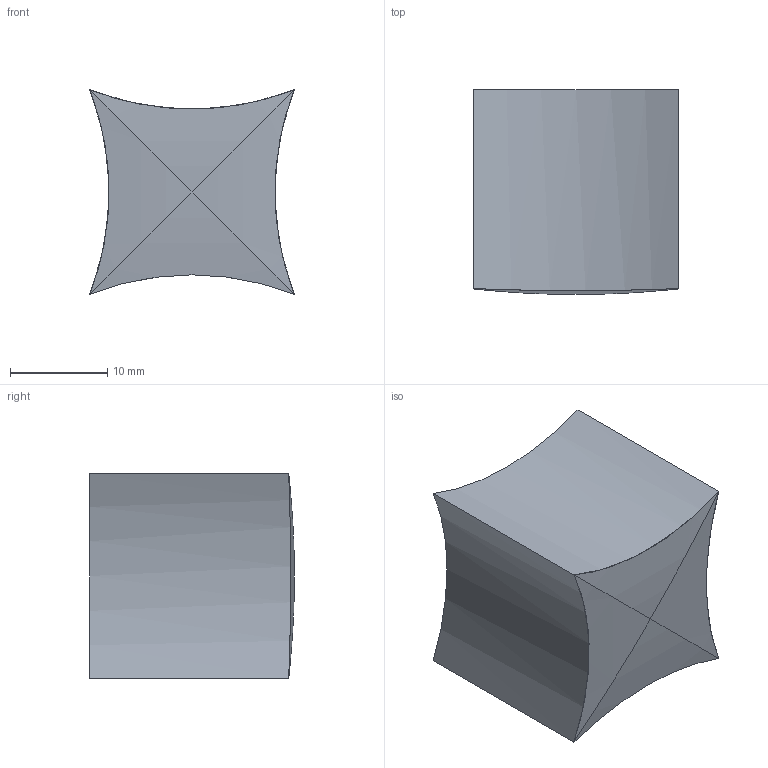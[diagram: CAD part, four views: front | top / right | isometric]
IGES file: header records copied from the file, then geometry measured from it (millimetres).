
Start section: Data from Parasolid IGES Translator 15.0.47, Copyright(c) 2006 Siemens P LM Software. All Rights Reserved.
Global section: file name: 9113635.igs; native system:  By UGS Corp.; preprocessor: XPlus GENERIC/IGES 3.0; author: Noname; organization: Noname; date: 20140122.174824; units: millimetre
Bounding box: 21 x 21 x 21 mm (x, y, z)
Surface area: 4128 mm2 (no closed solid volume)
Topology: 0 solids, 0 shells, 28 faces, 128 edges, 128 vertices
Faces by surface type: revolution 20, extrusion 8
